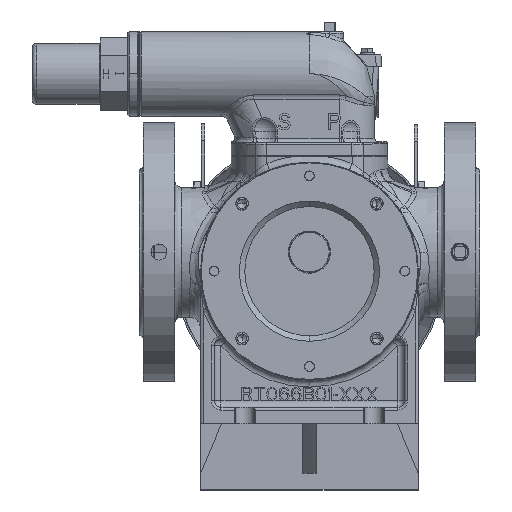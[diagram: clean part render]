
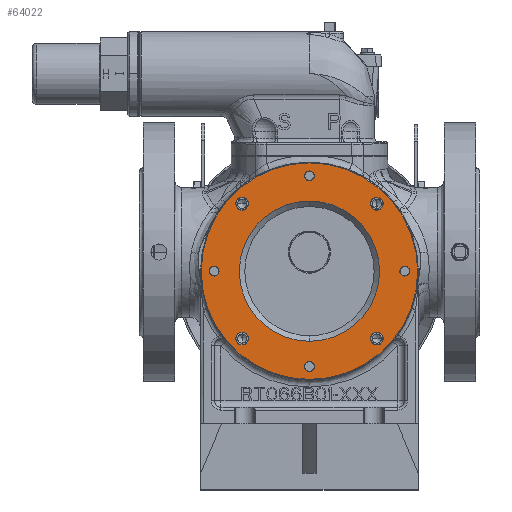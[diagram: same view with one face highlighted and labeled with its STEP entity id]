
A CAD part, top view. The second image highlights one B-rep face of the part: STEP entity #64022.
In plain terms, the highlighted planar face has unit normal (0, 0, 1).
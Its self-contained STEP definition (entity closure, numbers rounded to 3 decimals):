
#58089=CARTESIAN_POINT('',(0.,0.,-2.));
#58090=DIRECTION('',(0.,0.,1.));
#58091=DIRECTION('',(0.,1.,0.));
#58092=AXIS2_PLACEMENT_3D('',#58089,#58090,#58091);
#58094=CARTESIAN_POINT('',(0.,0.,-2.));
#58095=DIRECTION('',(0.,0.,-1.));
#58096=DIRECTION('',(0.,1.,0.));
#58097=AXIS2_PLACEMENT_3D('',#58094,#58095,#58096);
#58099=CARTESIAN_POINT('',(-70.,0.,-2.));
#58100=DIRECTION('',(0.,0.,-1.));
#58101=DIRECTION('',(0.,-1.,0.));
#58102=AXIS2_PLACEMENT_3D('',#58099,#58100,#58101);
#58104=CARTESIAN_POINT('',(-70.,0.,-2.));
#58105=DIRECTION('',(0.,0.,-1.));
#58106=DIRECTION('',(0.,1.,0.));
#58107=AXIS2_PLACEMENT_3D('',#58104,#58105,#58106);
#58109=CARTESIAN_POINT('',(-49.497,-49.497,-2.));
#58110=DIRECTION('',(0.,0.,-1.));
#58111=DIRECTION('',(0.,-1.,0.));
#58112=AXIS2_PLACEMENT_3D('',#58109,#58110,#58111);
#58114=CARTESIAN_POINT('',(-49.497,-49.497,-2.));
#58115=DIRECTION('',(0.,0.,-1.));
#58116=DIRECTION('',(0.,1.,0.));
#58117=AXIS2_PLACEMENT_3D('',#58114,#58115,#58116);
#58119=CARTESIAN_POINT('',(0.,-70.,-2.));
#58120=DIRECTION('',(0.,0.,-1.));
#58121=DIRECTION('',(1.,0.,0.));
#58122=AXIS2_PLACEMENT_3D('',#58119,#58120,#58121);
#58124=CARTESIAN_POINT('',(0.,-70.,-2.));
#58125=DIRECTION('',(0.,0.,-1.));
#58126=DIRECTION('',(-1.,0.,0.));
#58127=AXIS2_PLACEMENT_3D('',#58124,#58125,#58126);
#58129=CARTESIAN_POINT('',(49.497,-49.497,-2.));
#58130=DIRECTION('',(0.,0.,-1.));
#58131=DIRECTION('',(-1.,0.,0.));
#58132=AXIS2_PLACEMENT_3D('',#58129,#58130,#58131);
#58134=CARTESIAN_POINT('',(49.497,-49.497,-2.));
#58135=DIRECTION('',(0.,0.,-1.));
#58136=DIRECTION('',(1.,0.,0.));
#58137=AXIS2_PLACEMENT_3D('',#58134,#58135,#58136);
#58139=CARTESIAN_POINT('',(70.,0.,-2.));
#58140=DIRECTION('',(0.,0.,-1.));
#58141=DIRECTION('',(0.,-1.,0.));
#58142=AXIS2_PLACEMENT_3D('',#58139,#58140,#58141);
#58144=CARTESIAN_POINT('',(70.,0.,-2.));
#58145=DIRECTION('',(0.,0.,-1.));
#58146=DIRECTION('',(0.,1.,0.));
#58147=AXIS2_PLACEMENT_3D('',#58144,#58145,#58146);
#58149=CARTESIAN_POINT('',(49.497,49.497,-2.));
#58150=DIRECTION('',(0.,0.,-1.));
#58151=DIRECTION('',(0.,-1.,0.));
#58152=AXIS2_PLACEMENT_3D('',#58149,#58150,#58151);
#58154=CARTESIAN_POINT('',(49.497,49.497,-2.));
#58155=DIRECTION('',(0.,0.,-1.));
#58156=DIRECTION('',(0.,1.,0.));
#58157=AXIS2_PLACEMENT_3D('',#58154,#58155,#58156);
#58159=CARTESIAN_POINT('',(-49.497,49.497,-2.));
#58160=DIRECTION('',(0.,0.,-1.));
#58161=DIRECTION('',(-1.,0.,0.));
#58162=AXIS2_PLACEMENT_3D('',#58159,#58160,#58161);
#58164=CARTESIAN_POINT('',(-49.497,49.497,-2.));
#58165=DIRECTION('',(0.,0.,-1.));
#58166=DIRECTION('',(1.,0.,0.));
#58167=AXIS2_PLACEMENT_3D('',#58164,#58165,#58166);
#58169=CARTESIAN_POINT('',(0.,70.,-2.));
#58170=DIRECTION('',(0.,0.,-1.));
#58171=DIRECTION('',(-1.,0.,0.));
#58172=AXIS2_PLACEMENT_3D('',#58169,#58170,#58171);
#58174=CARTESIAN_POINT('',(0.,70.,-2.));
#58175=DIRECTION('',(0.,0.,-1.));
#58176=DIRECTION('',(1.,0.,0.));
#58177=AXIS2_PLACEMENT_3D('',#58174,#58175,#58176);
#58179=CARTESIAN_POINT('',(0.,0.,-2.));
#58180=DIRECTION('',(0.,0.,-1.));
#58181=DIRECTION('',(0.,1.,0.));
#58182=AXIS2_PLACEMENT_3D('',#58179,#58180,#58181);
#58184=CARTESIAN_POINT('',(0.,0.,-2.));
#58185=DIRECTION('',(0.,0.,-1.));
#58186=DIRECTION('',(0.,-1.,0.));
#58187=AXIS2_PLACEMENT_3D('',#58184,#58185,#58186);
#62624=CARTESIAN_POINT('',(0.,51.5,-2.));
#62625=VERTEX_POINT('',#62624);
#62626=CARTESIAN_POINT('',(0.,-51.5,-2.));
#62627=VERTEX_POINT('',#62626);
#62628=CARTESIAN_POINT('',(-70.,-3.6,-2.));
#62629=CARTESIAN_POINT('',(-70.,3.6,-2.));
#62630=VERTEX_POINT('',#62628);
#62631=VERTEX_POINT('',#62629);
#62636=CARTESIAN_POINT('',(-49.497,-54.197,-2.));
#62637=CARTESIAN_POINT('',(-49.497,-44.797,-2.));
#62638=VERTEX_POINT('',#62636);
#62639=VERTEX_POINT('',#62637);
#62644=CARTESIAN_POINT('',(3.6,-70.,-2.));
#62645=CARTESIAN_POINT('',(-3.6,-70.,-2.));
#62646=VERTEX_POINT('',#62644);
#62647=VERTEX_POINT('',#62645);
#62652=CARTESIAN_POINT('',(44.797,-49.497,-2.));
#62653=CARTESIAN_POINT('',(54.197,-49.497,-2.));
#62654=VERTEX_POINT('',#62652);
#62655=VERTEX_POINT('',#62653);
#62660=CARTESIAN_POINT('',(70.,-3.6,-2.));
#62661=CARTESIAN_POINT('',(70.,3.6,-2.));
#62662=VERTEX_POINT('',#62660);
#62663=VERTEX_POINT('',#62661);
#62668=CARTESIAN_POINT('',(49.497,44.797,-2.));
#62669=CARTESIAN_POINT('',(49.497,54.197,-2.));
#62670=VERTEX_POINT('',#62668);
#62671=VERTEX_POINT('',#62669);
#62676=CARTESIAN_POINT('',(-54.197,49.497,-2.));
#62677=CARTESIAN_POINT('',(-44.797,49.497,-2.));
#62678=VERTEX_POINT('',#62676);
#62679=VERTEX_POINT('',#62677);
#62684=CARTESIAN_POINT('',(-3.6,70.,-2.));
#62685=CARTESIAN_POINT('',(3.6,70.,-2.));
#62686=VERTEX_POINT('',#62684);
#62687=VERTEX_POINT('',#62685);
#62768=CARTESIAN_POINT('',(0.,79.5,-2.));
#62769=CARTESIAN_POINT('',(0.,-79.5,-2.));
#62770=VERTEX_POINT('',#62768);
#62771=VERTEX_POINT('',#62769);
#63959=CARTESIAN_POINT('',(0.,0.,-2.));
#63960=DIRECTION('',(0.,0.,1.));
#63961=DIRECTION('',(0.,1.,0.));
#63962=AXIS2_PLACEMENT_3D('',#63959,#63960,#63961);
#63963=PLANE('',#63962);
#63965=ORIENTED_EDGE('',*,*,#63964,.T.);
#63967=ORIENTED_EDGE('',*,*,#63966,.T.);
#63968=EDGE_LOOP('',(#63965,#63967));
#63969=FACE_OUTER_BOUND('',#63968,.F.);
#63971=ORIENTED_EDGE('',*,*,#63970,.F.);
#63973=ORIENTED_EDGE('',*,*,#63972,.F.);
#63974=EDGE_LOOP('',(#63971,#63973));
#63975=FACE_BOUND('',#63974,.F.);
#63977=ORIENTED_EDGE('',*,*,#63976,.F.);
#63979=ORIENTED_EDGE('',*,*,#63978,.F.);
#63980=EDGE_LOOP('',(#63977,#63979));
#63981=FACE_BOUND('',#63980,.F.);
#63983=ORIENTED_EDGE('',*,*,#63982,.F.);
#63985=ORIENTED_EDGE('',*,*,#63984,.F.);
#63986=EDGE_LOOP('',(#63983,#63985));
#63987=FACE_BOUND('',#63986,.F.);
#63989=ORIENTED_EDGE('',*,*,#63988,.F.);
#63991=ORIENTED_EDGE('',*,*,#63990,.F.);
#63992=EDGE_LOOP('',(#63989,#63991));
#63993=FACE_BOUND('',#63992,.F.);
#63995=ORIENTED_EDGE('',*,*,#63994,.F.);
#63997=ORIENTED_EDGE('',*,*,#63996,.F.);
#63998=EDGE_LOOP('',(#63995,#63997));
#63999=FACE_BOUND('',#63998,.F.);
#64001=ORIENTED_EDGE('',*,*,#64000,.F.);
#64003=ORIENTED_EDGE('',*,*,#64002,.F.);
#64004=EDGE_LOOP('',(#64001,#64003));
#64005=FACE_BOUND('',#64004,.F.);
#64007=ORIENTED_EDGE('',*,*,#64006,.F.);
#64009=ORIENTED_EDGE('',*,*,#64008,.F.);
#64010=EDGE_LOOP('',(#64007,#64009));
#64011=FACE_BOUND('',#64010,.F.);
#64013=ORIENTED_EDGE('',*,*,#64012,.F.);
#64015=ORIENTED_EDGE('',*,*,#64014,.F.);
#64016=EDGE_LOOP('',(#64013,#64015));
#64017=FACE_BOUND('',#64016,.F.);
#64018=ORIENTED_EDGE('',*,*,#63941,.T.);
#64019=ORIENTED_EDGE('',*,*,#63952,.F.);
#64020=EDGE_LOOP('',(#64018,#64019));
#64021=FACE_BOUND('',#64020,.F.);
#64022=ADVANCED_FACE('',(#63969,#63975,#63981,#63987,#63993,#63999,#64005,
#64011,#64017,#64021),#63963,.T.);
#58093=CIRCLE('',#58092,51.5);
#58098=CIRCLE('',#58097,51.5);
#58103=CIRCLE('',#58102,3.6);
#58108=CIRCLE('',#58107,3.6);
#58113=CIRCLE('',#58112,4.7);
#58118=CIRCLE('',#58117,4.7);
#58123=CIRCLE('',#58122,3.6);
#58128=CIRCLE('',#58127,3.6);
#58133=CIRCLE('',#58132,4.7);
#58138=CIRCLE('',#58137,4.7);
#58143=CIRCLE('',#58142,3.6);
#58148=CIRCLE('',#58147,3.6);
#58153=CIRCLE('',#58152,4.7);
#58158=CIRCLE('',#58157,4.7);
#58163=CIRCLE('',#58162,4.7);
#58168=CIRCLE('',#58167,4.7);
#58173=CIRCLE('',#58172,3.6);
#58178=CIRCLE('',#58177,3.6);
#58183=CIRCLE('',#58182,79.5);
#58188=CIRCLE('',#58187,79.5);
#63941=EDGE_CURVE('',#62625,#62627,#58093,.T.);
#63952=EDGE_CURVE('',#62625,#62627,#58098,.T.);
#63964=EDGE_CURVE('',#62770,#62771,#58183,.T.);
#63966=EDGE_CURVE('',#62771,#62770,#58188,.T.);
#63970=EDGE_CURVE('',#62630,#62631,#58103,.T.);
#63972=EDGE_CURVE('',#62631,#62630,#58108,.T.);
#63976=EDGE_CURVE('',#62638,#62639,#58113,.T.);
#63978=EDGE_CURVE('',#62639,#62638,#58118,.T.);
#63982=EDGE_CURVE('',#62646,#62647,#58123,.T.);
#63984=EDGE_CURVE('',#62647,#62646,#58128,.T.);
#63988=EDGE_CURVE('',#62654,#62655,#58133,.T.);
#63990=EDGE_CURVE('',#62655,#62654,#58138,.T.);
#63994=EDGE_CURVE('',#62662,#62663,#58143,.T.);
#63996=EDGE_CURVE('',#62663,#62662,#58148,.T.);
#64000=EDGE_CURVE('',#62670,#62671,#58153,.T.);
#64002=EDGE_CURVE('',#62671,#62670,#58158,.T.);
#64006=EDGE_CURVE('',#62678,#62679,#58163,.T.);
#64008=EDGE_CURVE('',#62679,#62678,#58168,.T.);
#64012=EDGE_CURVE('',#62686,#62687,#58173,.T.);
#64014=EDGE_CURVE('',#62687,#62686,#58178,.T.);
